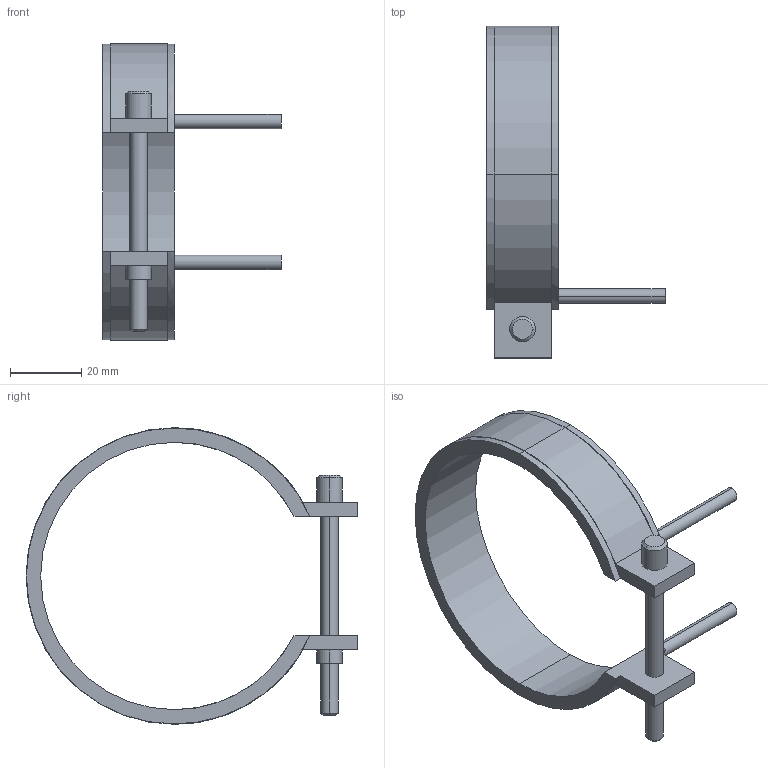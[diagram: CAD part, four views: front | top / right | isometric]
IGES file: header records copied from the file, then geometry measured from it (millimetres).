
Start section: START RECORD GO HERE.
Global section: file name: 14075020.igs; native system: DASSAULT SYSTEMES CATIA V5 R20 - www.3ds.com; preprocessor: CATIA Version 5 Release 20 ; author: Utente; organization: NB04-ASUS; date: 20210403.104712; units: millimetre
Bounding box: 50 x 93.1 x 83.2 mm (x, y, z)
Surface area: 13332.8 mm2 (no closed solid volume)
Topology: 0 solids, 0 shells, 45 faces, 232 edges, 232 vertices
Faces by surface type: revolution 28, plane 17
